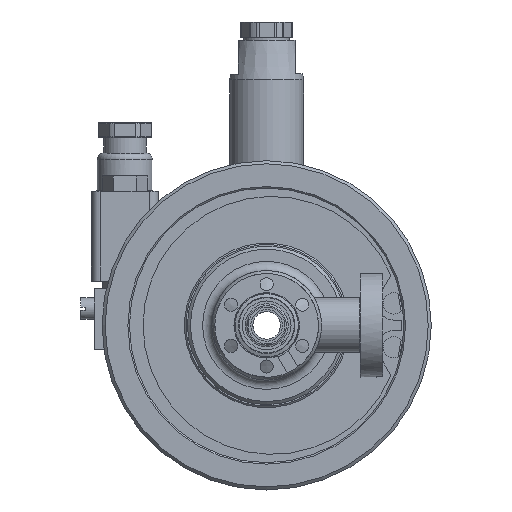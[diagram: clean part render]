
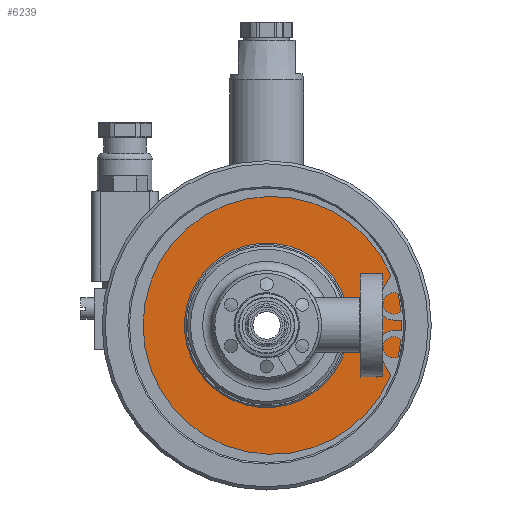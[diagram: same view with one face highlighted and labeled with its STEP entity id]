
A CAD part, front view. The second image highlights one B-rep face of the part: STEP entity #6239.
In plain terms, the highlighted planar face has unit normal (0, -1, 0) as drawn and (1, 0, 0) by its records, which use the part's own axes.
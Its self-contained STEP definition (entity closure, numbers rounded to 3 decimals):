
#3119=CIRCLE('',#16782,44.425);
#3120=CIRCLE('',#16784,15.);
#5521=FACE_BOUND('',#8253,.T.);
#5522=FACE_BOUND('',#8254,.T.);
#6239=ADVANCED_FACE('',(#5521,#5522),#6992,.T.);
#6992=PLANE('',#16785);
#8253=EDGE_LOOP('',(#10010));
#8254=EDGE_LOOP('',(#10011));
#10010=ORIENTED_EDGE('',*,*,#14577,.T.);
#10011=ORIENTED_EDGE('',*,*,#14576,.F.);
#13149=VERTEX_POINT('',#23128);
#13150=VERTEX_POINT('',#23131);
#14576=EDGE_CURVE('',#13149,#13149,#3119,.T.);
#14577=EDGE_CURVE('',#13150,#13150,#3120,.T.);
#16782=AXIS2_PLACEMENT_3D('',#23127,#18705,#18706);
#16784=AXIS2_PLACEMENT_3D('',#23130,#18709,#18710);
#16785=AXIS2_PLACEMENT_3D('',#23132,#18711,#18712);
#18705=DIRECTION('',(-1.,0.,0.));
#18706=DIRECTION('',(0.,0.,1.));
#18709=DIRECTION('',(-1.,0.,0.));
#18710=DIRECTION('',(0.,0.,1.));
#18711=DIRECTION('',(1.,0.,0.));
#18712=DIRECTION('',(0.,0.,-1.));
#23127=CARTESIAN_POINT('',(9.,0.,0.));
#23128=CARTESIAN_POINT('',(9.,0.,44.425));
#23130=CARTESIAN_POINT('',(9.,0.,0.));
#23131=CARTESIAN_POINT('',(9.,0.,15.));
#23132=CARTESIAN_POINT('',(9.,44.425,0.));
